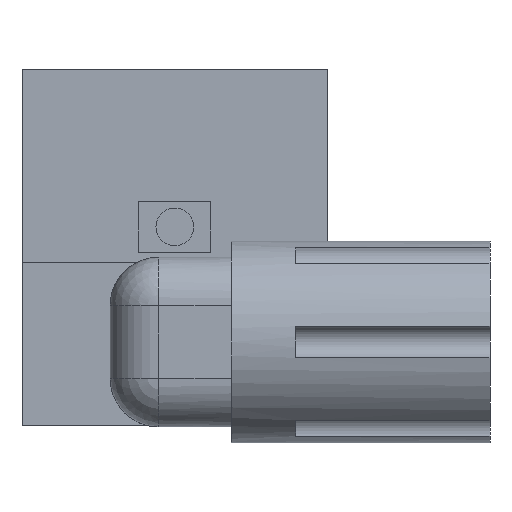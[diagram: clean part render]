
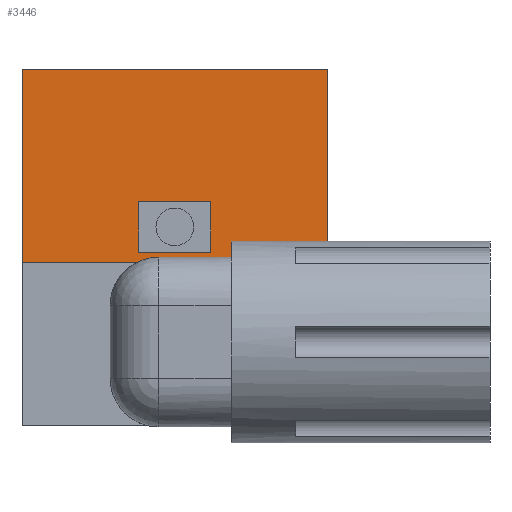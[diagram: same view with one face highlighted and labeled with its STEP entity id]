
A CAD part, front view. The second image highlights one B-rep face of the part: STEP entity #3446.
In plain terms, the highlighted planar face has unit normal (0, -1, 0).
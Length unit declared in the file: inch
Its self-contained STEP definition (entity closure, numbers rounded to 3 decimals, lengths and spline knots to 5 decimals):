
#437 = CARTESIAN_POINT ( 'NONE',  ( -2.38031, 0.29631, 0.30709 ) ) ;
#443 = DIRECTION ( 'NONE',  ( -1., 0., 0. ) ) ;
#531 = CARTESIAN_POINT ( 'NONE',  ( -1.78976, 0.29631, 1.05512 ) ) ;
#534 = CARTESIAN_POINT ( 'NONE',  ( -2.52007, 0.29631, 0.34646 ) ) ;
#543 = CARTESIAN_POINT ( 'NONE',  ( -2.52007, 0.29631, 0.54331 ) ) ;
#547 = CARTESIAN_POINT ( 'NONE',  ( -1.78976, 0.29631, 0.30709 ) ) ;
#550 = CARTESIAN_POINT ( 'NONE',  ( -2.97086, 0.29631, 1.05512 ) ) ;
#559 = CARTESIAN_POINT ( 'NONE',  ( -2.38031, 0.29631, 1.05512 ) ) ;
#581 = CARTESIAN_POINT ( 'NONE',  ( -2.24054, 0.29631, 0.59252 ) ) ;
#606 = DIRECTION ( 'NONE',  ( -1., 0., 0. ) ) ;
#607 = DIRECTION ( 'NONE',  ( -1., 0., 0. ) ) ;
#609 = CARTESIAN_POINT ( 'NONE',  ( -2.38031, 0.29631, 0.34646 ) ) ;
#649 = CARTESIAN_POINT ( 'NONE',  ( -1.78976, 0.29631, 0.59252 ) ) ;
#653 = DIRECTION ( 'NONE',  ( 0., 0., 1. ) ) ;
#656 = DIRECTION ( 'NONE',  ( 1., 0., 0. ) ) ;
#661 = DIRECTION ( 'NONE',  ( 0., 0., 1. ) ) ;
#683 = CARTESIAN_POINT ( 'NONE',  ( -2.38031, 0.29631, 0.54331 ) ) ;
#684 = CARTESIAN_POINT ( 'NONE',  ( -2.52007, 0.29631, 0.59252 ) ) ;
#690 = CARTESIAN_POINT ( 'NONE',  ( -2.97086, 0.29631, 0.59252 ) ) ;
#776 = DIRECTION ( 'NONE',  ( 0., 0., -1. ) ) ;
#830 = DIRECTION ( 'NONE',  ( 0., 0., -1. ) ) ;
#999 = EDGE_CURVE ( 'NONE', #2139, #2158, #4366, .T. ) ;
#1002 = EDGE_CURVE ( 'NONE', #2135, #2139, #4362, .T. ) ;
#1005 = EDGE_CURVE ( 'NONE', #2123, #2146, #4354, .T. ) ;
#1007 = EDGE_CURVE ( 'NONE', #2367, #2135, #4350, .T. ) ;
#1010 = EDGE_CURVE ( 'NONE', #2158, #2367, #4352, .T. ) ;
#1011 = EDGE_CURVE ( 'NONE', #2123, #2143, #4342, .T. ) ;
#1016 = EDGE_CURVE ( 'NONE', #2595, #2146, #4335, .T. ) ;
#1488 = AXIS2_PLACEMENT_3D ( 'NONE', #3290, #3299, #3300 ) ;
#1655 = EDGE_CURVE ( 'NONE', #2143, #2595, #4210, .T. ) ;
#1749 = CARTESIAN_POINT ( 'NONE',  ( -2.24054, 0.29631, 0.54331 ) ) ;
#1998 = CARTESIAN_POINT ( 'NONE',  ( -2.97086, 0.29631, 0.30709 ) ) ;
#2058 = CARTESIAN_POINT ( 'NONE',  ( -2.24054, 0.29631, 0.34646 ) ) ;
#2123 = VERTEX_POINT ( 'NONE', #531 ) ;
#2135 = VERTEX_POINT ( 'NONE', #534 ) ;
#2139 = VERTEX_POINT ( 'NONE', #543 ) ;
#2143 = VERTEX_POINT ( 'NONE', #547 ) ;
#2146 = VERTEX_POINT ( 'NONE', #550 ) ;
#2158 = VERTEX_POINT ( 'NONE', #1749 ) ;
#2238 = ORIENTED_EDGE ( 'NONE', *, *, #1016, .F. ) ;
#2367 = VERTEX_POINT ( 'NONE', #2058 ) ;
#2478 = ORIENTED_EDGE ( 'NONE', *, *, #1007, .T. ) ;
#2584 = ORIENTED_EDGE ( 'NONE', *, *, #1010, .T. ) ;
#2595 = VERTEX_POINT ( 'NONE', #1998 ) ;
#2609 = ORIENTED_EDGE ( 'NONE', *, *, #1011, .F. ) ;
#2613 = ORIENTED_EDGE ( 'NONE', *, *, #1655, .F. ) ;
#2661 = EDGE_LOOP ( 'NONE', ( #2613, #2609, #3768, #2238 ) ) ;
#2675 = EDGE_LOOP ( 'NONE', ( #3769, #2584, #2478, #3766 ) ) ;
#3070 = FACE_BOUND ( 'NONE', #2675, .T. ) ;
#3074 = FACE_OUTER_BOUND ( 'NONE', #2661, .T. ) ;
#3289 = PLANE ( 'NONE',  #1488 ) ;
#3290 = CARTESIAN_POINT ( 'NONE',  ( -2.97086, 0.29631, 0.12992 ) ) ;
#3299 = DIRECTION ( 'NONE',  ( 0., -1., 0. ) ) ;
#3300 = DIRECTION ( 'NONE',  ( 1., 0., 0. ) ) ;
#3446 = ADVANCED_FACE ( 'NONE', ( #3074, #3070 ), #3289, .T. ) ;
#3766 = ORIENTED_EDGE ( 'NONE', *, *, #1002, .T. ) ;
#3768 = ORIENTED_EDGE ( 'NONE', *, *, #1005, .T. ) ;
#3769 = ORIENTED_EDGE ( 'NONE', *, *, #999, .T. ) ;
#4210 = LINE ( 'NONE', #437, #4224 ) ;
#4224 = VECTOR ( 'NONE', #443, 39.37008 ) ;
#4331 = VECTOR ( 'NONE', #653, 39.37008 ) ;
#4335 = LINE ( 'NONE', #690, #4331 ) ;
#4339 = VECTOR ( 'NONE', #776, 39.37008 ) ;
#4341 = VECTOR ( 'NONE', #830, 39.37008 ) ;
#4342 = LINE ( 'NONE', #649, #4339 ) ;
#4347 = VECTOR ( 'NONE', #606, 39.37008 ) ;
#4350 = LINE ( 'NONE', #609, #4347 ) ;
#4351 = VECTOR ( 'NONE', #607, 39.37008 ) ;
#4352 = LINE ( 'NONE', #581, #4341 ) ;
#4354 = LINE ( 'NONE', #559, #4351 ) ;
#4357 = VECTOR ( 'NONE', #661, 39.37008 ) ;
#4362 = LINE ( 'NONE', #684, #4357 ) ;
#4363 = VECTOR ( 'NONE', #656, 39.37008 ) ;
#4366 = LINE ( 'NONE', #683, #4363 ) ;
